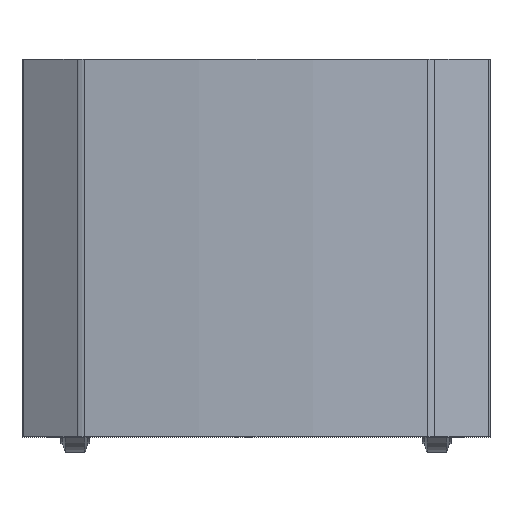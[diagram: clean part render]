
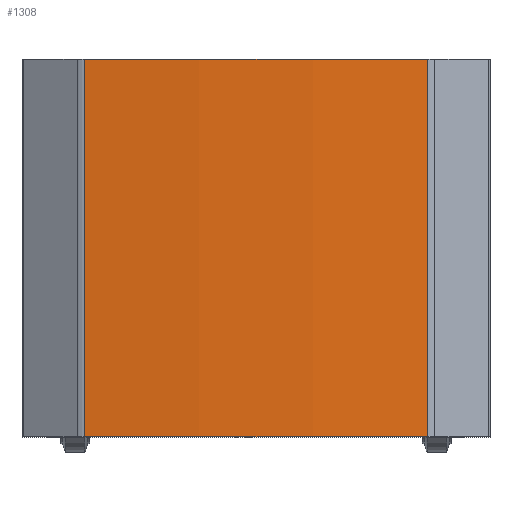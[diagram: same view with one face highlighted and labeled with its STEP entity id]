
A CAD part, top view. The second image highlights one B-rep face of the part: STEP entity #1308.
In plain terms, the highlighted cylindrical face has radius 1751 mm (diameter 3502 mm), a partial arc.
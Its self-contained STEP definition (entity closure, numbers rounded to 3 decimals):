
#707 = VECTOR ( 'NONE', #22651, 1000. ) ;
#1308 = ADVANCED_FACE ( 'NONE', ( #15058 ), #10791, .T. ) ;
#1874 = DIRECTION ( 'NONE',  ( 0., 1., 0. ) ) ;
#1898 = ORIENTED_EDGE ( 'NONE', *, *, #19070, .T. ) ;
#2057 = CARTESIAN_POINT ( 'NONE',  ( 211.154, 232., 350.362 ) ) ;
#3988 = CARTESIAN_POINT ( 'NONE',  ( 0., 232., -1387.86 ) ) ;
#4024 = VERTEX_POINT ( 'NONE', #15822 ) ;
#5415 = DIRECTION ( 'NONE',  ( 0., 1., 0. ) ) ;
#5619 = AXIS2_PLACEMENT_3D ( 'NONE', #9975, #20305, #17939 ) ;
#7230 = CIRCLE ( 'NONE', #20563, 1751. ) ;
#7325 = EDGE_LOOP ( 'NONE', ( #1898, #20728, #22279, #11988 ) ) ;
#7659 = LINE ( 'NONE', #2057, #13504 ) ;
#7962 = CARTESIAN_POINT ( 'NONE',  ( 211.154, -232., 350.362 ) ) ;
#8294 = CARTESIAN_POINT ( 'NONE',  ( 211.154, 232., 350.362 ) ) ;
#9469 = DIRECTION ( 'NONE',  ( 0., 0., 1. ) ) ;
#9975 = CARTESIAN_POINT ( 'NONE',  ( 0., 232., -1387.86 ) ) ;
#10791 = CYLINDRICAL_SURFACE ( 'NONE', #5619, 1751. ) ;
#11094 = DIRECTION ( 'NONE',  ( 0., -1., 0. ) ) ;
#11466 = AXIS2_PLACEMENT_3D ( 'NONE', #22020, #5415, #9469 ) ;
#11988 = ORIENTED_EDGE ( 'NONE', *, *, #13623, .T. ) ;
#12297 = EDGE_CURVE ( 'NONE', #21251, #22590, #7659, .T. ) ;
#13504 = VECTOR ( 'NONE', #11094, 1000. ) ;
#13623 = EDGE_CURVE ( 'NONE', #4024, #14999, #26979, .T. ) ;
#14999 = VERTEX_POINT ( 'NONE', #23401 ) ;
#15058 = FACE_OUTER_BOUND ( 'NONE', #7325, .T. ) ;
#15822 = CARTESIAN_POINT ( 'NONE',  ( -211.154, 232., 350.362 ) ) ;
#16560 = CIRCLE ( 'NONE', #11466, 1751. ) ;
#16564 = DIRECTION ( 'NONE',  ( 0., 0., 1. ) ) ;
#17939 = DIRECTION ( 'NONE',  ( 0., 0., -1. ) ) ;
#19070 = EDGE_CURVE ( 'NONE', #14999, #22590, #16560, .T. ) ;
#20305 = DIRECTION ( 'NONE',  ( 0., -1., 0. ) ) ;
#20563 = AXIS2_PLACEMENT_3D ( 'NONE', #3988, #1874, #16564 ) ;
#20728 = ORIENTED_EDGE ( 'NONE', *, *, #12297, .F. ) ;
#21251 = VERTEX_POINT ( 'NONE', #8294 ) ;
#22020 = CARTESIAN_POINT ( 'NONE',  ( 0., -232., -1387.86 ) ) ;
#22279 = ORIENTED_EDGE ( 'NONE', *, *, #24547, .F. ) ;
#22590 = VERTEX_POINT ( 'NONE', #7962 ) ;
#22651 = DIRECTION ( 'NONE',  ( 0., -1., 0. ) ) ;
#22746 = CARTESIAN_POINT ( 'NONE',  ( -211.154, 232., 350.362 ) ) ;
#23401 = CARTESIAN_POINT ( 'NONE',  ( -211.154, -232., 350.362 ) ) ;
#24547 = EDGE_CURVE ( 'NONE', #4024, #21251, #7230, .T. ) ;
#26979 = LINE ( 'NONE', #22746, #707 ) ;
